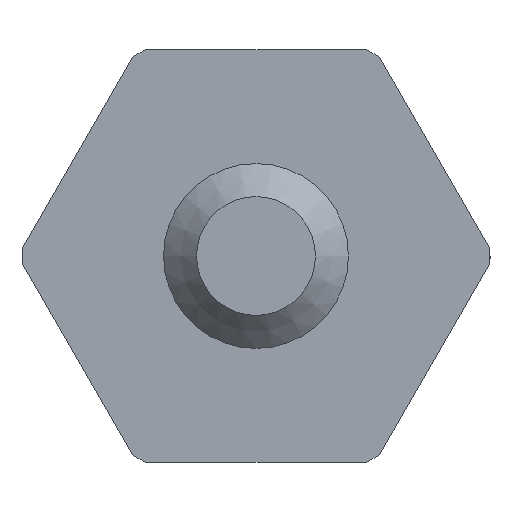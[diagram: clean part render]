
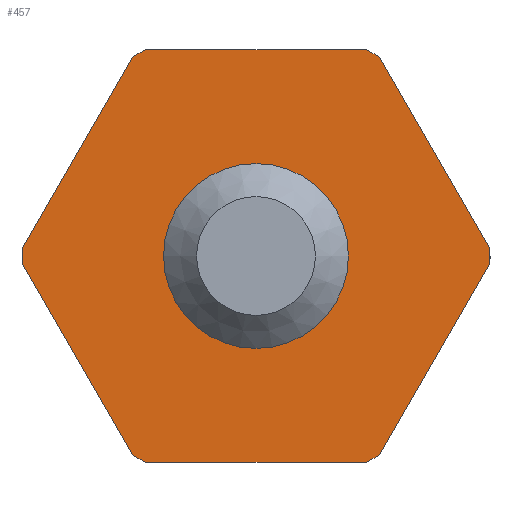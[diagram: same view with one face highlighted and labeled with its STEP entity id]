
A CAD part, left-side view. The second image highlights one B-rep face of the part: STEP entity #457.
In plain terms, the highlighted planar face has unit normal (-1, 0, 0).
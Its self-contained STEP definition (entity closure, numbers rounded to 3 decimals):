
#31=FACE_BOUND($,#88,.T.);
#32=FACE_BOUND($,#89,.T.);
#88=EDGE_LOOP($,(#333));
#89=EDGE_LOOP($,(#334,#335,#336,#337,#338,#339,#340,#341,#342,#343,#344,
#345));
#134=CIRCLE($,#502,0.991);
#135=CIRCLE($,#503,3.6);
#136=CIRCLE($,#504,3.6);
#137=CIRCLE($,#505,3.6);
#138=CIRCLE($,#506,3.6);
#139=CIRCLE($,#507,3.6);
#140=CIRCLE($,#508,3.6);
#160=LINE($,#729,#184);
#163=LINE($,#735,#187);
#166=LINE($,#741,#190);
#169=LINE($,#747,#193);
#172=LINE($,#753,#196);
#174=LINE($,#761,#198);
#184=VECTOR($,#581,3.394);
#187=VECTOR($,#586,3.394);
#190=VECTOR($,#591,3.394);
#193=VECTOR($,#596,3.394);
#196=VECTOR($,#601,3.394);
#198=VECTOR($,#609,3.394);
#217=VERTEX_POINT($,#726);
#218=VERTEX_POINT($,#728);
#219=VERTEX_POINT($,#732);
#220=VERTEX_POINT($,#734);
#221=VERTEX_POINT($,#738);
#222=VERTEX_POINT($,#740);
#223=VERTEX_POINT($,#744);
#224=VERTEX_POINT($,#746);
#225=VERTEX_POINT($,#750);
#226=VERTEX_POINT($,#752);
#227=VERTEX_POINT($,#756);
#228=VERTEX_POINT($,#758);
#229=VERTEX_POINT($,#760);
#259=EDGE_CURVE($,#218,#217,#160,.T.);
#262=EDGE_CURVE($,#220,#219,#163,.T.);
#265=EDGE_CURVE($,#222,#221,#166,.T.);
#268=EDGE_CURVE($,#224,#223,#169,.T.);
#271=EDGE_CURVE($,#226,#225,#172,.T.);
#273=EDGE_CURVE($,#227,#227,#134,.T.);
#274=EDGE_CURVE($,#217,#228,#135,.T.);
#275=EDGE_CURVE($,#228,#229,#174,.T.);
#276=EDGE_CURVE($,#229,#226,#136,.T.);
#277=EDGE_CURVE($,#225,#224,#137,.T.);
#278=EDGE_CURVE($,#223,#222,#138,.T.);
#279=EDGE_CURVE($,#221,#220,#139,.T.);
#280=EDGE_CURVE($,#219,#218,#140,.T.);
#333=ORIENTED_EDGE($,*,*,#273,.F.);
#334=ORIENTED_EDGE($,*,*,#259,.T.);
#335=ORIENTED_EDGE($,*,*,#274,.T.);
#336=ORIENTED_EDGE($,*,*,#275,.T.);
#337=ORIENTED_EDGE($,*,*,#276,.T.);
#338=ORIENTED_EDGE($,*,*,#271,.T.);
#339=ORIENTED_EDGE($,*,*,#277,.T.);
#340=ORIENTED_EDGE($,*,*,#268,.T.);
#341=ORIENTED_EDGE($,*,*,#278,.T.);
#342=ORIENTED_EDGE($,*,*,#265,.T.);
#343=ORIENTED_EDGE($,*,*,#279,.T.);
#344=ORIENTED_EDGE($,*,*,#262,.T.);
#345=ORIENTED_EDGE($,*,*,#280,.T.);
#408=PLANE($,#501);
#457=ADVANCED_FACE($,(#31,#32),#408,.T.);
#501=AXIS2_PLACEMENT_3D($,#755,#603,#604);
#502=AXIS2_PLACEMENT_3D($,#757,#605,#606);
#503=AXIS2_PLACEMENT_3D($,#759,#607,#608);
#504=AXIS2_PLACEMENT_3D($,#762,#610,#611);
#505=AXIS2_PLACEMENT_3D($,#763,#612,#613);
#506=AXIS2_PLACEMENT_3D($,#764,#614,#615);
#507=AXIS2_PLACEMENT_3D($,#765,#616,#617);
#508=AXIS2_PLACEMENT_3D($,#766,#618,#619);
#581=DIRECTION($,(0.,1.,0.));
#586=DIRECTION($,(0.,0.5,0.866));
#591=DIRECTION($,(0.,-0.5,0.866));
#596=DIRECTION($,(0.,-1.,0.));
#601=DIRECTION($,(0.,-0.5,-0.866));
#603=DIRECTION('center_axis',(-1.,0.,0.));
#604=DIRECTION('ref_axis',(0.,-0.866,-0.5));
#605=DIRECTION('center_axis',(-1.,0.,0.));
#606=DIRECTION('ref_axis',(0.,-0.5,0.866));
#607=DIRECTION('center_axis',(-1.,0.,0.));
#608=DIRECTION('ref_axis',(0.,-0.5,0.866));
#609=DIRECTION($,(0.,0.5,-0.866));
#610=DIRECTION('center_axis',(-1.,0.,0.));
#611=DIRECTION('ref_axis',(0.,-0.5,0.866));
#612=DIRECTION('center_axis',(-1.,0.,0.));
#613=DIRECTION('ref_axis',(0.,-0.5,0.866));
#614=DIRECTION('center_axis',(-1.,0.,0.));
#615=DIRECTION('ref_axis',(0.,-0.5,0.866));
#616=DIRECTION('center_axis',(-1.,0.,0.));
#617=DIRECTION('ref_axis',(0.,-0.5,0.866));
#618=DIRECTION('center_axis',(-1.,0.,0.));
#619=DIRECTION('ref_axis',(0.,-0.5,0.866));
#726=CARTESIAN_POINT('',(-15.281,3.832,3.175));
#728=CARTESIAN_POINT('',(-15.281,0.439,3.175));
#729=CARTESIAN_POINT($,(-15.281,1.566,3.175));
#732=CARTESIAN_POINT('',(-15.281,0.234,3.057));
#734=CARTESIAN_POINT('',(-15.281,-1.463,0.118));
#735=CARTESIAN_POINT($,(-15.281,-0.325,2.088));
#738=CARTESIAN_POINT('',(-15.281,-1.463,-0.118));
#740=CARTESIAN_POINT('',(-15.281,0.234,-3.057));
#741=CARTESIAN_POINT($,(-15.281,-1.19,-0.59));
#744=CARTESIAN_POINT('',(-15.281,0.439,-3.175));
#746=CARTESIAN_POINT('',(-15.281,3.832,-3.175));
#747=CARTESIAN_POINT($,(-15.281,1.557,-3.175));
#750=CARTESIAN_POINT('',(-15.281,4.037,-3.057));
#752=CARTESIAN_POINT('',(-15.281,5.734,-0.118));
#753=CARTESIAN_POINT($,(-15.281,5.17,-1.094));
#755=CARTESIAN_POINT('Origin',(-15.281,0.988,1.988));
#756=CARTESIAN_POINT('',(-15.281,1.64,0.858));
#757=CARTESIAN_POINT('Origin',(-15.281,2.135,0.));
#758=CARTESIAN_POINT('',(-15.281,4.037,3.057));
#759=CARTESIAN_POINT('Origin',(-15.281,2.135,0.));
#760=CARTESIAN_POINT('',(-15.281,5.734,0.118));
#761=CARTESIAN_POINT($,(-15.281,4.313,2.578));
#762=CARTESIAN_POINT('Origin',(-15.281,2.135,0.));
#763=CARTESIAN_POINT('Origin',(-15.281,2.135,0.));
#764=CARTESIAN_POINT('Origin',(-15.281,2.135,0.));
#765=CARTESIAN_POINT('Origin',(-15.281,2.135,0.));
#766=CARTESIAN_POINT('Origin',(-15.281,2.135,0.));
